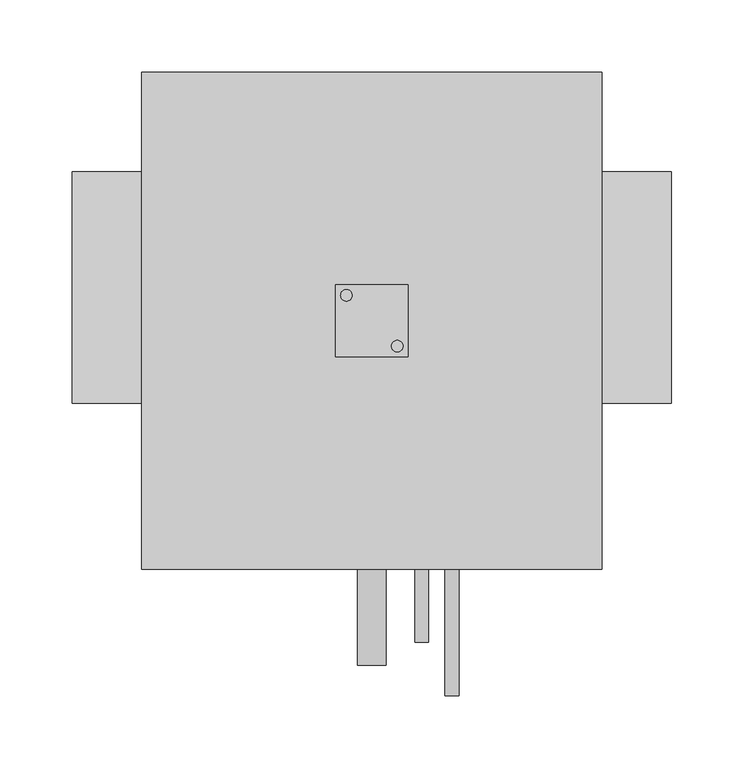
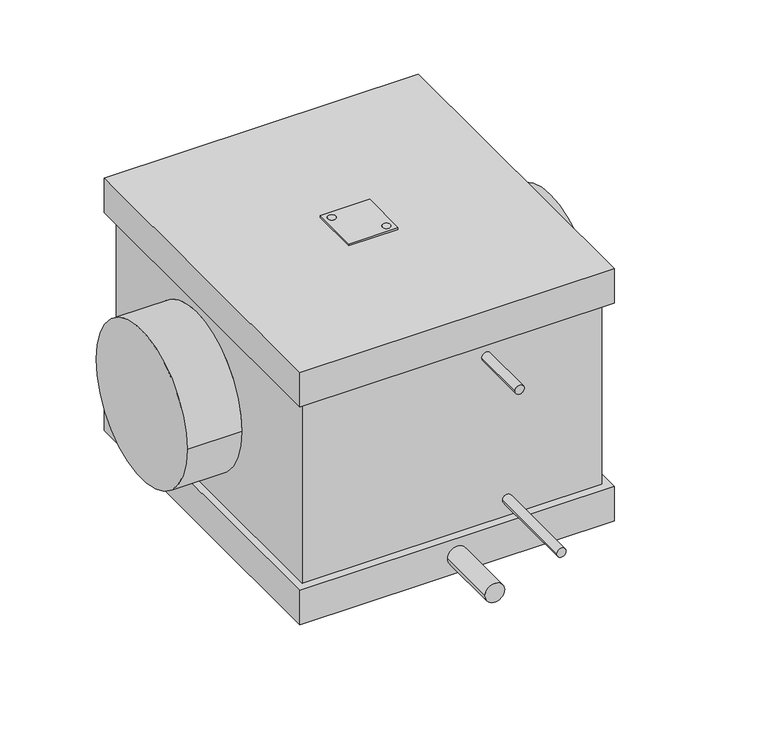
"""IFC4 building model written with IfcOpenShell, lengths in millimetres: proxy geometry, KORF_Охладитель_Фреоновый_Круглый_Левый_KFLO : KFLO 160/2."""

from ifc_helpers import new_model, si_unit, point, frame, frame_2d, origin, place, context, project, spatial, polyline, circle_curve, trimmed, segment, composite_curve, outline, extrude, source, transform, mapped, element, save
from ifc_brep_helpers import plane_surface, cylinder_surface, advanced_brep


def mechanical_equipment_47d9994d(model_context):
    return source(origin(), model_context, "Body", "SolidModel", [
        extrude(outline(composite_curve([segment(trimmed(circle_curve(frame_2d((189.9272934, -5.4254254)), 4.0), [point((185.9272934, -5.4254254))], [point((193.9272934, -5.4254254))], False, "CARTESIAN"), True, "CONTINUOUS"), segment(trimmed(circle_curve(frame_2d((189.9272934, -5.4254254)), 4.0), [point((193.9272934, -5.4254254))], [point((185.9272934, -5.4254254))], False, "CARTESIAN"), True, "CONTINUOUS")], self_intersect=False)), frame((0.0, 0.0, 135.5), z_axis=(0.0, 0.0, 1.0), x_axis=(1.0, 0.0, 0.0)), (0.0, 0.0, 1.0), 2.0),
        extrude(outline(composite_curve([segment(trimmed(circle_curve(frame_2d((225.0727066, -40.5745746)), 4.0), [point((229.0727066, -40.5745746))], [point((221.0727066, -40.5745746))], False, "CARTESIAN"), True, "CONTINUOUS"), segment(trimmed(circle_curve(frame_2d((225.0727066, -40.5745746)), 4.0), [point((221.0727066, -40.5745746))], [point((229.0727066, -40.5745746))], False, "CARTESIAN"), True, "CONTINUOUS")], self_intersect=False)), frame((0.0, 0.0, 135.5), z_axis=(0.0, 0.0, 1.0), x_axis=(1.0, 0.0, 0.0)), (0.0, 0.0, 1.0), 2.0),
        extrude(outline(polyline([(232.5, 2.0), (232.5, -48.0), (182.5, -48.0), (182.5, 2.0), (232.5, 2.0)]), holes=[composite_curve([segment(trimmed(circle_curve(frame_2d((189.9272934, -5.4254254)), 4.0), [point((185.9272934, -5.4254254))], [point((193.9272934, -5.4254254))], True, "CARTESIAN"), True, "CONTINUOUS"), segment(trimmed(circle_curve(frame_2d((189.9272934, -5.4254254)), 4.0), [point((193.9272934, -5.4254254))], [point((185.9272934, -5.4254254))], True, "CARTESIAN"), True, "CONTINUOUS")], self_intersect=False), composite_curve([segment(trimmed(circle_curve(frame_2d((225.0727066, -40.5745746)), 4.0), [point((229.0727066, -40.5745746))], [point((221.0727066, -40.5745746))], True, "CARTESIAN"), True, "CONTINUOUS"), segment(trimmed(circle_curve(frame_2d((225.0727066, -40.5745746)), 4.0), [point((221.0727066, -40.5745746))], [point((229.0727066, -40.5745746))], True, "CARTESIAN"), True, "CONTINUOUS")], self_intersect=False)]), frame((0.0, 0.0, 135.5), z_axis=(0.0, 0.0, 1.0), x_axis=(1.0, 0.0, 0.0)), (0.0, 0.0, 1.0), 2.0),
        advanced_brep(
        [(415.0, -80.0, 0.0), (415.0, 80.0, 0.0), (0.0, -80.0, 0.0), (0.0, 80.0, 0.0), (359.5, -80.0, 0.0), (359.5, 80.0, 0.0), (55.5, 80.0, 0.0), (55.5, -80.0, 0.0), (359.5, -186.5, -98.5), (359.5, 140.5, -98.5), (359.5, 140.5, 98.5), (359.5, -186.5, 98.5), (55.5, 140.5, -98.5), (55.5, -186.5, -98.5), (55.5, -186.5, 98.5), (55.5, 140.5, 98.5), (358.5, -186.5, -98.5), (358.5, -186.5, 98.5), (56.5, -186.5, 98.5), (56.5, -186.5, -98.5), (367.0, 149.0, -135.5), (367.0, -195.0, -135.5), (48.0, -195.0, -135.5), (48.0, 149.0, -135.5), (358.5, 140.5, -98.5), (56.5, 140.5, -98.5), (56.5, 140.5, 98.5), (358.5, 140.5, 98.5), (367.0, -195.0, 135.5), (367.0, 149.0, 135.5), (48.0, 149.0, 135.5), (48.0, -195.0, 135.5), (367.0, 149.0, -98.5), (367.0, -195.0, -98.5), (48.0, -195.0, -98.5), (48.0, 149.0, -98.5), (367.0, 149.0, 98.5), (367.0, -195.0, 98.5), (48.0, -195.0, 98.5), (48.0, 149.0, 98.5)],
        [
            (0, 1, circle_curve(frame((415.0, 0.0, 0.0), z_axis=(1.0, 0.0, 0.0), x_axis=(0.0, 1.0, 0.0)), 80.0)),
            (1, 0, circle_curve(frame((415.0, 0.0, 0.0), z_axis=(1.0, 0.0, 0.0), x_axis=(0.0, 1.0, 0.0)), 80.0)),
            (2, 3, circle_curve(frame((0.0, 0.0, 0.0), z_axis=(-1.0, 0.0, 0.0), x_axis=(0.0, 1.0, 0.0)), 80.0)),
            (3, 2, circle_curve(frame((0.0, 0.0, 0.0), z_axis=(-1.0, 0.0, 0.0), x_axis=(0.0, 1.0, 0.0)), 80.0)),
            (0, 4),
            (4, 5, circle_curve(frame((359.5, 0.0, 0.0), z_axis=(1.0, 0.0, 0.0), x_axis=(0.0, 1.0, 0.0)), 80.0)),
            (5, 1),
            (3, 6),
            (6, 7, circle_curve(frame((55.5, 0.0, 0.0), z_axis=(-1.0, 0.0, 0.0), x_axis=(0.0, 1.0, 0.0)), 80.0)),
            (7, 2),
            (5, 4, circle_curve(frame((359.5, 0.0, 0.0), z_axis=(1.0, 0.0, 0.0), x_axis=(0.0, 1.0, 0.0)), 80.0)),
            (7, 6, circle_curve(frame((55.5, 0.0, 0.0), z_axis=(-1.0, 0.0, 0.0), x_axis=(0.0, 1.0, 0.0)), 80.0)),
            (8, 9),
            (9, 10),
            (10, 11),
            (11, 8),
            (12, 13),
            (13, 14),
            (14, 15),
            (15, 12),
            (16, 8),
            (11, 17),
            (17, 18),
            (18, 14),
            (13, 19),
            (19, 16),
            (20, 21),
            (21, 22),
            (22, 23),
            (23, 20),
            (9, 24),
            (24, 25),
            (25, 12),
            (15, 26),
            (26, 27),
            (27, 10),
            (28, 29),
            (29, 30),
            (30, 31),
            (31, 28),
            (20, 32),
            (32, 33),
            (33, 21),
            (33, 34),
            (34, 22),
            (34, 35),
            (35, 23),
            (32, 35),
            (36, 29),
            (28, 37),
            (37, 36),
            (31, 38),
            (38, 37),
            (30, 39),
            (39, 38),
            (36, 39),
        ],
        [
            plane_surface(frame((415.0, 80.0, 0.0), z_axis=(1.0, 0.0, 0.0), x_axis=(0.0, 0.0, 1.0))),
            plane_surface(frame((0.0, 80.0, 0.0), z_axis=(-1.0, 0.0, 0.0), x_axis=(0.0, 0.0, -1.0))),
            cylinder_surface(frame((0.0, 0.0, 0.0), z_axis=(1.0, 0.0, 0.0), x_axis=(0.0, 1.0, 0.0)), 80.0),
            plane_surface(frame((359.5, -186.5, 135.5), z_axis=(1.0, 0.0, 0.0), x_axis=(0.0, 0.0, -1.0))),
            plane_surface(frame((55.5, -186.5, 135.5), z_axis=(-1.0, 0.0, 0.0), x_axis=(0.0, 0.0, 1.0))),
            plane_surface(frame((359.5, -186.5, 135.5), z_axis=(0.0, -1.0, 0.0), x_axis=(-1.0, 0.0, 0.0))),
            plane_surface(frame((359.5, -186.5, -135.5), z_axis=(0.0, 0.0, -1.0), x_axis=(-1.0, 0.0, 0.0))),
            plane_surface(frame((359.5, 140.5, -135.5), z_axis=(0.0, 1.0, 0.0), x_axis=(-1.0, 0.0, 0.0))),
            plane_surface(frame((359.5, 140.5, 135.5), z_axis=(0.0, 0.0, 1.0), x_axis=(-1.0, 0.0, 0.0))),
            plane_surface(frame((367.0, 149.0, -98.5), z_axis=(1.0, 0.0, 0.0), x_axis=(0.0, -1.0, 0.0))),
            plane_surface(frame((367.0, -195.0, -98.5), z_axis=(0.0, -1.0, 0.0), x_axis=(-1.0, 0.0, 0.0))),
            plane_surface(frame((48.0, -195.0, -98.5), z_axis=(-1.0, 0.0, 0.0), x_axis=(0.0, 1.0, 0.0))),
            plane_surface(frame((56.5, 140.5, -98.5), z_axis=(0.0, 0.0, 1.0), x_axis=(1.0, 0.0, 0.0))),
            plane_surface(frame((48.0, 149.0, -98.5), z_axis=(0.0, 1.0, 0.0), x_axis=(1.0, 0.0, 0.0))),
            plane_surface(frame((367.0, 149.0, 135.5), z_axis=(1.0, 0.0, 0.0), x_axis=(0.0, -1.0, 0.0))),
            plane_surface(frame((367.0, -195.0, 135.5), z_axis=(0.0, -1.0, 0.0), x_axis=(-1.0, 0.0, 0.0))),
            plane_surface(frame((48.0, -195.0, 135.5), z_axis=(-1.0, 0.0, 0.0), x_axis=(0.0, 1.0, 0.0))),
            plane_surface(frame((48.0, 149.0, 135.5), z_axis=(0.0, 1.0, 0.0), x_axis=(1.0, 0.0, 0.0))),
            plane_surface(frame((48.0, 149.0, 98.5), z_axis=(0.0, 0.0, -1.0), x_axis=(1.0, 0.0, 0.0))),
        ],
        [
            (0, [[1, 2]]),
            (1, [[3, 4]]),
            (2, [[-1, 5, 6, 7]]),
            (2, [[-4, 8, 9, 10]]),
            (2, [[-2, -7, 11, -5]]),
            (2, [[-3, -10, 12, -8]]),
            (3, [[13, 14, 15, 16], [-6, -11]]),
            (4, [[17, 18, 19, 20], [-9, -12]]),
            (5, [[21, -16, 22, 23, 24, -18, 25, 26]]),
            (6, [[27, 28, 29, 30]]),
            (7, [[31, 32, 33, -20, 34, 35, 36, -14]]),
            (8, [[37, 38, 39, 40]]),
            (9, [[41, 42, 43, -27]]),
            (10, [[-43, 44, 45, -28]]),
            (11, [[-45, 46, 47, -29]]),
            (12, [[-42, 48, -46, -44], [-13, -21, -26, -25, -17, -33, -32, -31]]),
            (13, [[-41, -30, -47, -48]]),
            (14, [[49, -37, 50, 51]]),
            (15, [[-50, -40, 52, 53]]),
            (16, [[-52, -39, 54, 55]]),
            (17, [[-49, 56, -54, -38]]),
            (18, [[-51, -53, -55, -56], [-15, -36, -35, -34, -19, -24, -23, -22]]),
        ],
    ),
        extrude(outline(composite_curve([segment(trimmed(circle_curve(frame_2d((-80.0, 263.0)), 4.76), [point((-80.0, 258.24))], [point((-80.0, 267.76))], False, "CARTESIAN"), True, "CONTINUOUS"), segment(trimmed(circle_curve(frame_2d((-80.0, 263.0)), 4.76), [point((-80.0, 267.76))], [point((-80.0, 258.24))], False, "CARTESIAN"), True, "CONTINUOUS")], self_intersect=False)), frame((0.0, -282.5, 0.0), z_axis=(0.0, 1.0, 0.0), x_axis=(0.0, 0.0, 1.0)), (0.0, 0.0, 1.0), 96.0),
        extrude(outline(composite_curve([segment(trimmed(circle_curve(frame_2d((80.0, 242.0)), 4.76), [point((80.0, 237.24))], [point((80.0, 246.76))], False, "CARTESIAN"), True, "CONTINUOUS"), segment(trimmed(circle_curve(frame_2d((80.0, 242.0)), 4.76), [point((80.0, 246.76))], [point((80.0, 237.24))], False, "CARTESIAN"), True, "CONTINUOUS")], self_intersect=False)), frame((0.0, -245.5, 0.0), z_axis=(0.0, 1.0, 0.0), x_axis=(0.0, 0.0, 1.0)), (0.0, 0.0, 1.0), 59.0),
        extrude(outline(composite_curve([segment(trimmed(circle_curve(frame_2d((-116.5, 207.5)), 10.0), [point((-116.5, 197.5))], [point((-116.5, 217.5))], False, "CARTESIAN"), True, "CONTINUOUS"), segment(trimmed(circle_curve(frame_2d((-116.5, 207.5)), 10.0), [point((-116.5, 217.5))], [point((-116.5, 197.5))], False, "CARTESIAN"), True, "CONTINUOUS")], self_intersect=False)), frame((0.0, -261.5, 0.0), z_axis=(0.0, 1.0, 0.0), x_axis=(0.0, 0.0, 1.0)), (0.0, 0.0, 1.0), 66.5),
    ])


if __name__ == "__main__":
    model = new_model("IFC4")
    model_context = context("Model", 3, world=origin())
    ifc_project = project(units=[si_unit("LENGTHUNIT", "METRE", prefix="MILLI")], contexts=[model_context])
    site = spatial("IfcSite", under=ifc_project)
    building = spatial("IfcBuilding", under=site)
    placement = place(None, origin())
    mechanical_equipment_shape = mechanical_equipment_47d9994d(model_context)
    element("IfcBuildingElementProxy", 1, Name="KORF_Охладитель_Фреоновый_Круглый_Левый_KFLO : KFLO 160/2", ObjectType="KORF_Охладитель_Фреоновый_Круглый_Левый_KFLO : KFLO 160/2", at=placement, inside=building, context=model_context, shape_type="MappedRepresentation", body=[
        mapped(mechanical_equipment_shape, transform((0.0, 0.0, 0.0), x_axis=(1.0, 0.0, 0.0), y_axis=(0.0, 1.0, 0.0), z_axis=(0.0, 0.0, 1.0))),
    ])
    save(model, "model.ifc")
